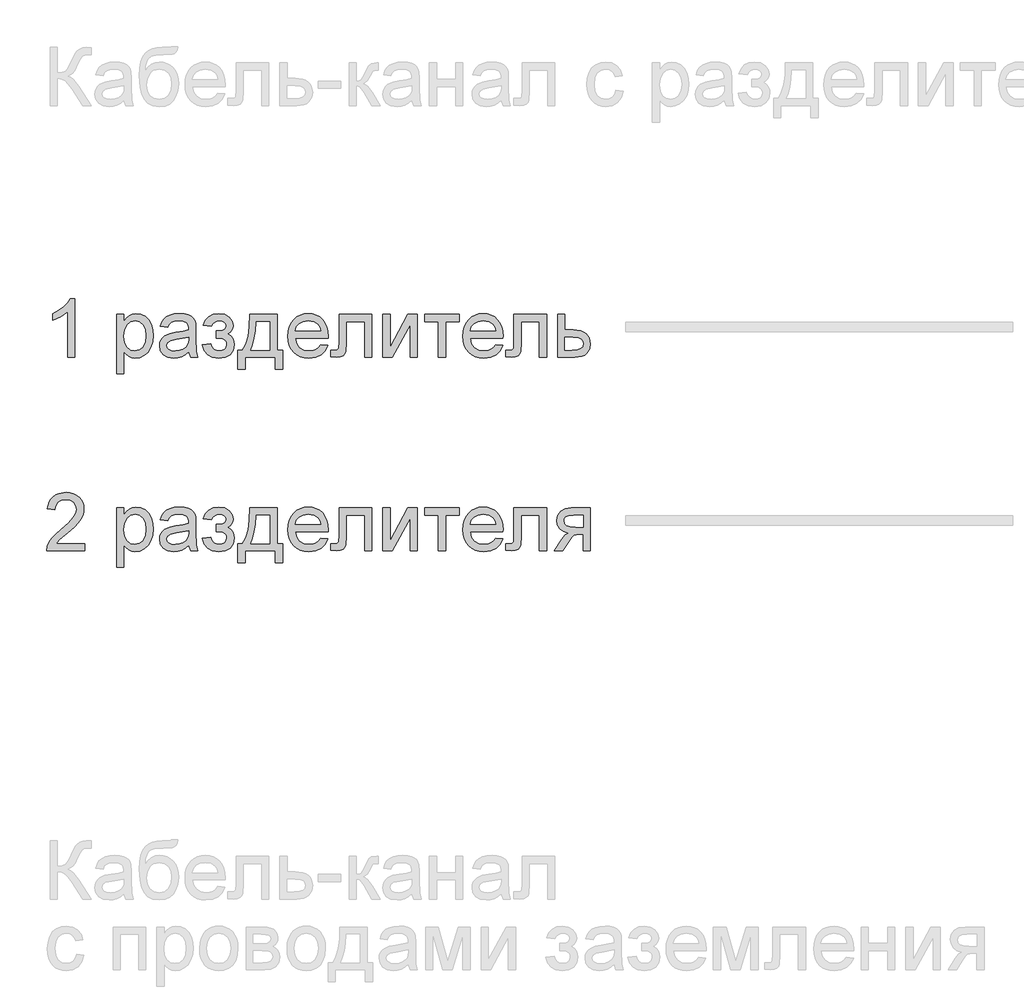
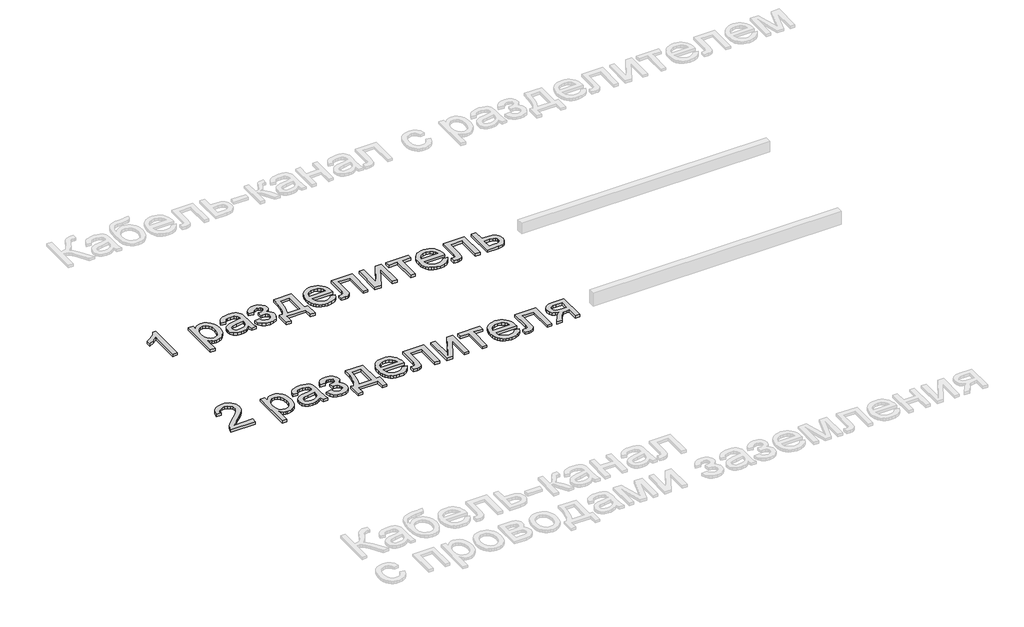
# One storey, part 82 of 168: 2 proxies.
"""IFC4 building model written with IfcOpenShell, lengths in millimetres."""

from ifc_helpers import new_model, si_unit, origin, origin_with_axes, place, context, project, spatial, polyline, outline, extrude, element, save

model = new_model("IFC4")

# Units and contexts
model_context = context("Model", 3, world=origin())
ifc_project = project(units=[si_unit("LENGTHUNIT", "METRE", prefix="MILLI")], contexts=[model_context])

# Site, building, storey
site = spatial("IfcSite", under=ifc_project)
building = spatial("IfcBuilding", under=site)
storey = spatial("IfcBuildingStorey", under=building, Name="Этаж 01", Elevation=0.0)

# Proxies
placement = place(None, origin())
element("IfcBuildingElementProxy", 1, Name="300 мм Arial 2", ObjectType="300 мм Arial 2", at=placement, inside=storey, context=model_context, shape_type="SweptSolid", body=[
    extrude(outline(polyline([(905.9577491, -18348.4056816), (868.2866328, -18348.4056816), (868.2866328, -18113.5498158), (832.6020793, -18138.9704617), (792.9444002, -18157.9899609), (792.9444002, -18122.3789837), (822.5313096, -18106.2841464), (848.1634877, -18087.1358886), (868.3694062, -18066.7736202), (881.6775374, -18047.0367511), (905.9577491, -18047.0367511), (905.9577491, -18348.4056816)])), origin_with_axes(), (0.0, 0.0, 1.0), 20.0),
    extrude(outline(polyline([(1122.5666679, -18433.1656933), (1122.5666679, -18127.0878733), (1160.2377842, -18127.0878733), (1160.2377842, -18164.0232256), (1172.5250428, -18145.8038698), (1186.2838294, -18132.7900442), (1202.3234844, -18124.9817488), (1221.4533482, -18122.3789837), (1246.9291763, -18126.0210155), (1269.2044311, -18136.9471107), (1287.3410135, -18154.4950819), (1300.4008243, -18178.0027414), (1308.2918931, -18205.7594379), (1310.9222494, -18236.0545202), (1307.9516023, -18268.271786), (1299.0396609, -18297.0861432), (1284.4715339, -18321.0352611), (1264.5323298, -18338.6568087), (1241.3097788, -18349.5001305), (1216.8916114, -18353.1145711), (1199.5735665, -18350.695747), (1184.1133256, -18343.4392746), (1170.8787709, -18332.4855882), (1160.2377842, -18318.975122), (1160.2377842, -18433.1656933), (1122.5666679, -18433.1656933)]), holes=[polyline([(1160.2377842, -18239.512611), (1164.3120773, -18273.2841782), (1176.5349565, -18296.9022022), (1194.5703714, -18310.8081417), (1216.082271, -18315.4434548), (1237.9436586, -18310.6425948), (1256.4389259, -18296.2400147), (1269.0480813, -18271.7574679), (1273.2511331, -18236.7167078), (1269.1492488, -18203.1290817), (1256.8435961, -18179.1799638), (1238.8357724, -18164.832566), (1217.6273754, -18160.0501), (1196.3362049, -18165.1360686), (1177.6386025, -18180.3939744), (1164.5879888, -18205.3455707), (1160.2377842, -18239.512611)])]), origin_with_axes(), (0.0, 0.0, 1.0), 20.0),
    extrude(outline(polyline([(1494.5689414, -18320.1523443), (1476.5703148, -18335.584994), (1458.0382593, -18345.6833548), (1438.5497106, -18351.256767), (1417.6816044, -18353.1145711), (1386.2001026, -18348.6448049), (1362.9775517, -18335.2355061), (1348.657745, -18314.8732377), (1343.8844762, -18289.5445623), (1345.6870979, -18273.9279716), (1351.0949633, -18259.7461207), (1359.4366875, -18247.6060149), (1370.040886, -18238.1146594), (1396.4180251, -18225.7538244), (1429.0123698, -18220.0884417), (1467.5296147, -18214.1287533), (1494.3482122, -18207.1389954), (1494.5689414, -18198.7512859), (1491.9753733, -18181.9390788), (1484.1946691, -18170.9394071), (1466.7938507, -18162.7724268), (1442.5504273, -18160.0501), (1420.1096256, -18161.8619189), (1404.4378526, -18167.2973753), (1393.7508806, -18177.3497509), (1386.264482, -18193.0123268), (1348.5933657, -18188.3034373), (1355.1324682, -18167.7020455), (1364.8905381, -18151.5152378), (1378.7780834, -18139.1360086), (1397.705612, -18129.9573528), (1420.8545866, -18124.273576), (1447.4064696, -18122.3789837), (1472.8731007, -18124.0528468), (1493.0606252, -18129.074436), (1508.2817427, -18136.625214), (1518.8491531, -18145.8866432), (1525.8573051, -18157.3369703), (1530.4006477, -18171.4544419), (1532.2400577, -18204.4166687), (1532.2400577, -18251.2848348), (1534.1530441, -18316.7310418), (1541.6578368, -18348.4056816), (1503.9867205, -18348.4056816), (1494.5689414, -18320.1523443)]), holes=[polyline([(1494.5689414, -18244.8101117), (1433.7948358, -18256.3616064), (1401.384432, -18262.4684475), (1386.7059404, -18272.4012614), (1381.5555925, -18286.895812), (1384.3606927, -18298.0978187), (1392.7759933, -18307.2764745), (1406.6175534, -18313.4017097), (1425.7014319, -18315.4434548), (1445.9349416, -18313.1901776), (1463.8140066, -18306.4303459), (1478.3085572, -18296.4699409), (1488.3885239, -18284.6149436), (1492.8582901, -18272.4012614), (1494.3482122, -18255.4786896), (1494.5689414, -18244.8101117)])]), origin_with_axes(), (0.0, 0.0, 1.0), 20.0),
    extrude(outline(polyline([(1635.8356275, -18249.5190013), (1635.8356275, -18211.847885), (1665.5604927, -18210.376357), (1680.5700781, -18202.5404705), (1685.8675789, -18195.1920276), (1687.6334124, -18186.1697217), (1685.2697706, -18175.4551586), (1678.1788452, -18167.1502225), (1667.3539175, -18161.8251307), (1653.7882689, -18160.0501), (1640.0754675, -18161.8159336), (1628.5883522, -18167.1134343), (1619.326923, -18175.9426022), (1612.2911798, -18188.3034373), (1569.911174, -18183.5945477), (1581.1499689, -18156.8127385), (1598.2380876, -18137.6828747), (1621.17553, -18126.2049565), (1649.9622961, -18122.3789837), (1681.4529949, -18127.041888), (1705.2917482, -18141.0306009), (1720.3013336, -18161.4940369), (1725.3045288, -18185.5811105), (1723.5248996, -18197.9419455), (1718.1860121, -18208.9784054), (1709.2878664, -18218.6904901), (1696.8304623, -18227.0781996), (1711.3709982, -18237.5444423), (1721.7360734, -18250.5490709), (1727.9440821, -18266.1288733), (1730.0134183, -18284.320638), (1724.7619028, -18312.0497434), (1709.0073564, -18334.0214956), (1683.8166367, -18348.3413022), (1650.2566017, -18353.1145711), (1617.4323307, -18348.6999872), (1592.3151875, -18335.4562353), (1574.9051721, -18313.3833156), (1565.2022845, -18282.481228), (1607.5822903, -18277.7723385), (1613.9282547, -18293.7016289), (1624.5784385, -18305.5842173), (1638.3004369, -18312.9786454), (1653.8618453, -18315.4434548), (1669.0185835, -18313.079813), (1681.3794185, -18305.9888875), (1689.6015811, -18295.2191421), (1692.342302, -18281.8190404), (1690.6408478, -18271.2056449), (1685.5364851, -18262.0269891), (1671.0419345, -18251.4319876), (1643.1932674, -18249.2982721), (1635.8356275, -18249.5190013)])), origin_with_axes(), (0.0, 0.0, 1.0), 20.0),
    extrude(outline(polyline([(1810.0645404, -18127.0878733), (1951.3312266, -18127.0878733), (1951.3312266, -18310.7345653), (1979.5845638, -18310.7345653), (1979.5845638, -18409.6212456), (1941.9134475, -18409.6212456), (1941.9134475, -18348.4056816), (1786.5200928, -18348.4056816), (1786.5200928, -18409.6212456), (1748.8489764, -18409.6212456), (1748.8489764, -18310.7345653), (1772.3934241, -18310.7345653), (1789.509134, -18279.8048865), (1801.49289, -18238.8872116), (1808.3446921, -18187.9815405), (1810.0645404, -18127.0878733)]), holes=[polyline([(1843.0267672, -18164.7589896), (1839.9365585, -18210.8821947), (1834.1975993, -18250.5858591), (1825.8098898, -18283.8699826), (1814.77343, -18310.7345653), (1913.6601103, -18310.7345653), (1913.6601103, -18164.7589896), (1843.0267672, -18164.7589896)])]), origin_with_axes(), (0.0, 0.0, 1.0), 20.0),
    extrude(outline(polyline([(2176.916466, -18282.481228), (2213.8518183, -18287.1901176), (2200.5436872, -18315.0203905), (2179.307699, -18335.8241173), (2150.6221004, -18348.7919577), (2114.965138, -18353.1145711), (2091.5908358, -18351.2498692), (2070.7641163, -18345.6557637), (2052.4849797, -18336.3322543), (2036.7534259, -18323.2793413), (2024.1028838, -18306.860308), (2015.0667823, -18287.4384379), (2009.6451214, -18265.013731), (2007.837901, -18239.5861874), (2009.6635155, -18213.2964203), (2015.1403587, -18190.1244531), (2024.2684307, -18170.0702859), (2037.0477315, -18153.1339185), (2052.7378986, -18139.6786346), (2070.5985694, -18130.0677174), (2090.6297441, -18124.3011672), (2112.8314225, -18122.3789837), (2134.3180303, -18124.2965686), (2153.7490974, -18130.0493233), (2171.1246239, -18139.6372478), (2186.4446097, -18153.0603421), (2198.9502983, -18169.9599213), (2207.882933, -18189.9773003), (2213.2425138, -18213.1124793), (2215.0290407, -18239.3654582), (2214.8083115, -18249.5190013), (2045.5090174, -18249.5190013), (2052.0297257, -18277.7171562), (2067.1772669, -18298.4473066), (2089.0386544, -18311.1944178), (2115.700902, -18315.4434548), (2135.7504708, -18313.4752861), (2152.6362544, -18307.5707801), (2166.3582528, -18297.3620547), (2176.916466, -18282.481228)]), holes=[polyline([(2045.5090174, -18211.847885), (2177.3579244, -18211.847885), (2172.2627588, -18191.945469), (2162.2747626, -18177.7084358), (2140.3122075, -18164.464684), (2112.6842697, -18160.0501), (2087.291215, -18163.5725701), (2066.2943501, -18174.1399805), (2051.6986319, -18190.6118968), (2045.5090174, -18211.847885)])]), origin_with_axes(), (0.0, 0.0, 1.0), 20.0),
    extrude(outline(polyline([(2271.5357152, -18127.0878733), (2441.0557386, -18127.0878733), (2441.0557386, -18348.1849524), (2403.3846223, -18348.1849524), (2403.3846223, -18164.7589896), (2309.2068315, -18164.7589896), (2309.2068315, -18270.3411222), (2306.6684457, -18319.0486984), (2301.9135709, -18330.0759612), (2292.7257181, -18339.6133019), (2278.7829905, -18346.2075866), (2259.7634913, -18348.4056816), (2229.1557093, -18346.4926952), (2229.1557093, -18310.7345653), (2246.0047047, -18310.7345653), (2263.0376411, -18308.4169087), (2269.843458, -18301.0592688), (2271.5357152, -18268.2074066), (2271.5357152, -18127.0878733)])), origin_with_axes(), (0.0, 0.0, 1.0), 20.0),
    extrude(outline(polyline([(2497.562413, -18127.0878733), (2535.2335293, -18127.0878733), (2535.2335293, -18295.8721327), (2627.7926393, -18127.0878733), (2676.5002155, -18127.0878733), (2676.5002155, -18348.4056816), (2638.8290992, -18348.4056816), (2638.8290992, -18180.6514918), (2546.8586004, -18348.4056816), (2497.562413, -18348.4056816), (2497.562413, -18127.0878733)])), origin_with_axes(), (0.0, 0.0, 1.0), 20.0),
    extrude(outline(polyline([(2714.1713318, -18127.0878733), (2893.1091342, -18127.0878733), (2893.1091342, -18164.7589896), (2822.4757912, -18164.7589896), (2822.4757912, -18348.4056816), (2784.8046749, -18348.4056816), (2784.8046749, -18164.7589896), (2714.1713318, -18164.7589896), (2714.1713318, -18127.0878733)])), origin_with_axes(), (0.0, 0.0, 1.0), 20.0),
    extrude(outline(polyline([(3081.0232574, -18282.481228), (3117.9586097, -18287.1901176), (3104.6504785, -18315.0203905), (3083.4144903, -18335.8241173), (3054.7288918, -18348.7919577), (3019.0719294, -18353.1145711), (2995.6976271, -18351.2498692), (2974.8709077, -18345.6557637), (2956.591771, -18336.3322543), (2940.8602172, -18323.2793413), (2928.2096751, -18306.860308), (2919.1735736, -18287.4384379), (2913.7519127, -18265.013731), (2911.9446924, -18239.5861874), (2913.7703068, -18213.2964203), (2919.24715, -18190.1244531), (2928.375222, -18170.0702859), (2941.1545228, -18153.1339185), (2956.8446899, -18139.6786346), (2974.7053608, -18130.0677174), (2994.7365354, -18124.3011672), (3016.9382138, -18122.3789837), (3038.4248216, -18124.2965686), (3057.8558887, -18130.0493233), (3075.2314152, -18139.6372478), (3090.5514011, -18153.0603421), (3103.0570896, -18169.9599213), (3111.9897243, -18189.9773003), (3117.3493051, -18213.1124793), (3119.1358321, -18239.3654582), (3118.9151029, -18249.5190013), (2949.6158087, -18249.5190013), (2956.1365171, -18277.7171562), (2971.2840582, -18298.4473066), (2993.1454458, -18311.1944178), (3019.8076934, -18315.4434548), (3039.8572621, -18313.4752861), (3056.7430457, -18307.5707801), (3070.4650441, -18297.3620547), (3081.0232574, -18282.481228)]), holes=[polyline([(2949.6158087, -18211.847885), (3081.4647158, -18211.847885), (3076.3695501, -18191.945469), (3066.381554, -18177.7084358), (3044.4189989, -18164.464684), (3016.791061, -18160.0501), (2991.3980063, -18163.5725701), (2970.4011414, -18174.1399805), (2955.8054233, -18190.6118968), (2949.6158087, -18211.847885)])]), origin_with_axes(), (0.0, 0.0, 1.0), 20.0),
    extrude(outline(polyline([(3175.6425065, -18127.0878733), (3345.1625299, -18127.0878733), (3345.1625299, -18348.1849524), (3307.4914136, -18348.1849524), (3307.4914136, -18164.7589896), (3213.3136228, -18164.7589896), (3213.3136228, -18270.3411222), (3210.7752371, -18319.0486984), (3206.0203623, -18330.0759612), (3196.8325095, -18339.6133019), (3182.8897818, -18346.2075866), (3163.8702827, -18348.4056816), (3133.2625007, -18346.4926952), (3133.2625007, -18310.7345653), (3150.1114961, -18310.7345653), (3167.1444324, -18308.4169087), (3173.9502494, -18301.0592688), (3175.6425065, -18268.2074066), (3175.6425065, -18127.0878733)])), origin_with_axes(), (0.0, 0.0, 1.0), 20.0),
    extrude(outline(polyline([(3401.6692044, -18127.0878733), (3439.3403207, -18127.0878733), (3439.3403207, -18207.1389954), (3482.7503961, -18207.1389954), (3520.3847242, -18211.857082), (3535.5322654, -18217.7546902), (3548.2333913, -18226.0113418), (3558.2765697, -18236.3419281), (3565.4502686, -18248.4613405), (3571.1892278, -18278.0666441), (3566.3055943, -18305.0231973), (3551.6546938, -18327.7675016), (3540.4227966, -18336.7967054), (3526.2616391, -18343.2461366), (3489.1515428, -18348.4056816), (3401.6692044, -18348.4056816), (3401.6692044, -18127.0878733)]), holes=[polyline([(3439.3403207, -18310.7345653), (3474.5098394, -18310.7345653), (3501.7974864, -18308.7571995), (3519.9432658, -18302.8251024), (3530.1244, -18292.6991504), (3533.5181114, -18278.1402205), (3531.0073168, -18265.8345678), (3523.474933, -18254.9636548), (3507.3341104, -18247.3484975), (3478.9979998, -18244.8101117), (3439.3403207, -18244.8101117), (3439.3403207, -18310.7345653)])]), origin_with_axes(), (0.0, 0.0, 1.0), 20.0),
])
element("IfcBuildingElementProxy", 2, Name="300 мм Arial 2", ObjectType="300 мм Arial 2", at=placement, inside=storey, context=model_context, shape_type="SweptSolid", body=[
    extrude(outline(polyline([(957.755534, -19310.7345653), (957.755534, -19348.4056816), (759.9821734, -19348.4056816), (764.0288754, -19322.4332127), (773.3178957, -19302.1353236), (786.9111355, -19282.4444398), (806.5744281, -19261.8338511), (834.0736072, -19238.776847), (874.7245677, -19202.6692292), (899.115144, -19176.0161786), (911.3104321, -19154.3847173), (915.3755282, -19133.3418672), (911.5403584, -19114.4787179), (900.034849, -19098.7977478), (882.3489221, -19088.2303375), (859.9724997, -19084.7078674), (836.4740373, -19088.1475641), (818.2178932, -19098.466654), (806.4364724, -19114.8557969), (802.3621793, -19136.5056523), (764.6910629, -19131.7967628), (773.8237335, -19095.3580512), (782.3700921, -19080.8221139), (793.5697996, -19068.7417888), (807.1653386, -19059.2458348), (822.8991916, -19052.4630105), (860.7818401, -19047.0367511), (880.9716638, -19048.5450673), (898.9404, -19053.0700158), (914.6880487, -19060.6115967), (928.2146098, -19071.16981), (939.078625, -19083.9629064), (946.8386358, -19098.2091366), (951.4946423, -19113.9085008), (953.0466445, -19131.0609988), (951.3727814, -19149.0780195), (946.3511922, -19166.7823406), (937.4392508, -19184.7901642), (924.0943315, -19203.7176929), (902.8215551, -19226.3148444), (870.1260428, -19255.3315368), (826.7895437, -19291.5679133), (809.7933956, -19310.7345653), (957.755534, -19310.7345653)])), origin_with_axes(), (0.0, 0.0, 1.0), 20.0),
    extrude(outline(polyline([(1122.5666679, -19433.1656933), (1122.5666679, -19127.0878733), (1160.2377842, -19127.0878733), (1160.2377842, -19164.0232256), (1172.5250428, -19145.8038698), (1186.2838294, -19132.7900442), (1202.3234844, -19124.9817488), (1221.4533482, -19122.3789837), (1246.9291763, -19126.0210155), (1269.2044311, -19136.9471107), (1287.3410135, -19154.4950819), (1300.4008243, -19178.0027414), (1308.2918931, -19205.7594379), (1310.9222494, -19236.0545202), (1307.9516023, -19268.271786), (1299.0396609, -19297.0861432), (1284.4715339, -19321.0352611), (1264.5323298, -19338.6568087), (1241.3097788, -19349.5001305), (1216.8916114, -19353.1145711), (1199.5735665, -19350.695747), (1184.1133256, -19343.4392746), (1170.8787709, -19332.4855882), (1160.2377842, -19318.975122), (1160.2377842, -19433.1656933), (1122.5666679, -19433.1656933)]), holes=[polyline([(1160.2377842, -19239.512611), (1164.3120773, -19273.2841782), (1176.5349565, -19296.9022022), (1194.5703714, -19310.8081417), (1216.082271, -19315.4434548), (1237.9436586, -19310.6425948), (1256.4389259, -19296.2400147), (1269.0480813, -19271.7574679), (1273.2511331, -19236.7167078), (1269.1492488, -19203.1290817), (1256.8435961, -19179.1799638), (1238.8357724, -19164.832566), (1217.6273754, -19160.0501), (1196.3362049, -19165.1360686), (1177.6386025, -19180.3939744), (1164.5879888, -19205.3455707), (1160.2377842, -19239.512611)])]), origin_with_axes(), (0.0, 0.0, 1.0), 20.0),
    extrude(outline(polyline([(1494.5689414, -19320.1523443), (1476.5703148, -19335.584994), (1458.0382593, -19345.6833548), (1438.5497106, -19351.256767), (1417.6816044, -19353.1145711), (1386.2001026, -19348.6448049), (1362.9775517, -19335.2355061), (1348.657745, -19314.8732377), (1343.8844762, -19289.5445623), (1345.6870979, -19273.9279716), (1351.0949633, -19259.7461207), (1359.4366875, -19247.6060149), (1370.040886, -19238.1146594), (1396.4180251, -19225.7538244), (1429.0123698, -19220.0884417), (1467.5296147, -19214.1287533), (1494.3482122, -19207.1389954), (1494.5689414, -19198.7512859), (1491.9753733, -19181.9390788), (1484.1946691, -19170.9394071), (1466.7938507, -19162.7724268), (1442.5504273, -19160.0501), (1420.1096256, -19161.8619189), (1404.4378526, -19167.2973753), (1393.7508806, -19177.3497509), (1386.264482, -19193.0123268), (1348.5933657, -19188.3034373), (1355.1324682, -19167.7020455), (1364.8905381, -19151.5152378), (1378.7780834, -19139.1360086), (1397.705612, -19129.9573528), (1420.8545866, -19124.273576), (1447.4064696, -19122.3789837), (1472.8731007, -19124.0528468), (1493.0606252, -19129.074436), (1508.2817427, -19136.625214), (1518.8491531, -19145.8866432), (1525.8573051, -19157.3369703), (1530.4006477, -19171.4544419), (1532.2400577, -19204.4166687), (1532.2400577, -19251.2848348), (1534.1530441, -19316.7310418), (1541.6578368, -19348.4056816), (1503.9867205, -19348.4056816), (1494.5689414, -19320.1523443)]), holes=[polyline([(1494.5689414, -19244.8101117), (1433.7948358, -19256.3616064), (1401.384432, -19262.4684475), (1386.7059404, -19272.4012614), (1381.5555925, -19286.895812), (1384.3606927, -19298.0978187), (1392.7759933, -19307.2764745), (1406.6175534, -19313.4017097), (1425.7014319, -19315.4434548), (1445.9349416, -19313.1901776), (1463.8140066, -19306.4303459), (1478.3085572, -19296.4699409), (1488.3885239, -19284.6149436), (1492.8582901, -19272.4012614), (1494.3482122, -19255.4786896), (1494.5689414, -19244.8101117)])]), origin_with_axes(), (0.0, 0.0, 1.0), 20.0),
    extrude(outline(polyline([(1635.8356275, -19249.5190013), (1635.8356275, -19211.847885), (1665.5604927, -19210.376357), (1680.5700781, -19202.5404705), (1685.8675789, -19195.1920276), (1687.6334124, -19186.1697217), (1685.2697706, -19175.4551586), (1678.1788452, -19167.1502225), (1667.3539175, -19161.8251307), (1653.7882689, -19160.0501), (1640.0754675, -19161.8159336), (1628.5883522, -19167.1134343), (1619.326923, -19175.9426022), (1612.2911798, -19188.3034373), (1569.911174, -19183.5945477), (1581.1499689, -19156.8127385), (1598.2380876, -19137.6828747), (1621.17553, -19126.2049565), (1649.9622961, -19122.3789837), (1681.4529949, -19127.041888), (1705.2917482, -19141.0306009), (1720.3013336, -19161.4940369), (1725.3045288, -19185.5811105), (1723.5248996, -19197.9419455), (1718.1860121, -19208.9784054), (1709.2878664, -19218.6904901), (1696.8304623, -19227.0781996), (1711.3709982, -19237.5444423), (1721.7360734, -19250.5490709), (1727.9440821, -19266.1288733), (1730.0134183, -19284.320638), (1724.7619028, -19312.0497434), (1709.0073564, -19334.0214956), (1683.8166367, -19348.3413022), (1650.2566017, -19353.1145711), (1617.4323307, -19348.6999872), (1592.3151875, -19335.4562353), (1574.9051721, -19313.3833156), (1565.2022845, -19282.481228), (1607.5822903, -19277.7723385), (1613.9282547, -19293.7016289), (1624.5784385, -19305.5842173), (1638.3004369, -19312.9786454), (1653.8618453, -19315.4434548), (1669.0185835, -19313.079813), (1681.3794185, -19305.9888875), (1689.6015811, -19295.2191421), (1692.342302, -19281.8190404), (1690.6408478, -19271.2056449), (1685.5364851, -19262.0269891), (1671.0419345, -19251.4319876), (1643.1932674, -19249.2982721), (1635.8356275, -19249.5190013)])), origin_with_axes(), (0.0, 0.0, 1.0), 20.0),
    extrude(outline(polyline([(1810.0645404, -19127.0878733), (1951.3312266, -19127.0878733), (1951.3312266, -19310.7345653), (1979.5845638, -19310.7345653), (1979.5845638, -19409.6212456), (1941.9134475, -19409.6212456), (1941.9134475, -19348.4056816), (1786.5200928, -19348.4056816), (1786.5200928, -19409.6212456), (1748.8489764, -19409.6212456), (1748.8489764, -19310.7345653), (1772.3934241, -19310.7345653), (1789.509134, -19279.8048865), (1801.49289, -19238.8872116), (1808.3446921, -19187.9815405), (1810.0645404, -19127.0878733)]), holes=[polyline([(1843.0267672, -19164.7589896), (1839.9365585, -19210.8821947), (1834.1975993, -19250.5858591), (1825.8098898, -19283.8699826), (1814.77343, -19310.7345653), (1913.6601103, -19310.7345653), (1913.6601103, -19164.7589896), (1843.0267672, -19164.7589896)])]), origin_with_axes(), (0.0, 0.0, 1.0), 20.0),
    extrude(outline(polyline([(2176.916466, -19282.481228), (2213.8518183, -19287.1901176), (2200.5436872, -19315.0203905), (2179.307699, -19335.8241173), (2150.6221004, -19348.7919577), (2114.965138, -19353.1145711), (2091.5908358, -19351.2498692), (2070.7641163, -19345.6557637), (2052.4849797, -19336.3322543), (2036.7534259, -19323.2793413), (2024.1028838, -19306.860308), (2015.0667823, -19287.4384379), (2009.6451214, -19265.013731), (2007.837901, -19239.5861874), (2009.6635155, -19213.2964203), (2015.1403587, -19190.1244531), (2024.2684307, -19170.0702859), (2037.0477315, -19153.1339185), (2052.7378986, -19139.6786346), (2070.5985694, -19130.0677174), (2090.6297441, -19124.3011672), (2112.8314225, -19122.3789837), (2134.3180303, -19124.2965686), (2153.7490974, -19130.0493233), (2171.1246239, -19139.6372478), (2186.4446097, -19153.0603421), (2198.9502983, -19169.9599213), (2207.882933, -19189.9773003), (2213.2425138, -19213.1124793), (2215.0290407, -19239.3654582), (2214.8083115, -19249.5190013), (2045.5090174, -19249.5190013), (2052.0297257, -19277.7171562), (2067.1772669, -19298.4473066), (2089.0386544, -19311.1944178), (2115.700902, -19315.4434548), (2135.7504708, -19313.4752861), (2152.6362544, -19307.5707801), (2166.3582528, -19297.3620547), (2176.916466, -19282.481228)]), holes=[polyline([(2045.5090174, -19211.847885), (2177.3579244, -19211.847885), (2172.2627588, -19191.945469), (2162.2747626, -19177.7084358), (2140.3122075, -19164.464684), (2112.6842697, -19160.0501), (2087.291215, -19163.5725701), (2066.2943501, -19174.1399805), (2051.6986319, -19190.6118968), (2045.5090174, -19211.847885)])]), origin_with_axes(), (0.0, 0.0, 1.0), 20.0),
    extrude(outline(polyline([(2271.5357152, -19127.0878733), (2441.0557386, -19127.0878733), (2441.0557386, -19348.1849524), (2403.3846223, -19348.1849524), (2403.3846223, -19164.7589896), (2309.2068315, -19164.7589896), (2309.2068315, -19270.3411222), (2306.6684457, -19319.0486984), (2301.9135709, -19330.0759612), (2292.7257181, -19339.6133019), (2278.7829905, -19346.2075866), (2259.7634913, -19348.4056816), (2229.1557093, -19346.4926952), (2229.1557093, -19310.7345653), (2246.0047047, -19310.7345653), (2263.0376411, -19308.4169087), (2269.843458, -19301.0592688), (2271.5357152, -19268.2074066), (2271.5357152, -19127.0878733)])), origin_with_axes(), (0.0, 0.0, 1.0), 20.0),
    extrude(outline(polyline([(2497.562413, -19127.0878733), (2535.2335293, -19127.0878733), (2535.2335293, -19295.8721327), (2627.7926393, -19127.0878733), (2676.5002155, -19127.0878733), (2676.5002155, -19348.4056816), (2638.8290992, -19348.4056816), (2638.8290992, -19180.6514918), (2546.8586004, -19348.4056816), (2497.562413, -19348.4056816), (2497.562413, -19127.0878733)])), origin_with_axes(), (0.0, 0.0, 1.0), 20.0),
    extrude(outline(polyline([(2714.1713318, -19127.0878733), (2893.1091342, -19127.0878733), (2893.1091342, -19164.7589896), (2822.4757912, -19164.7589896), (2822.4757912, -19348.4056816), (2784.8046749, -19348.4056816), (2784.8046749, -19164.7589896), (2714.1713318, -19164.7589896), (2714.1713318, -19127.0878733)])), origin_with_axes(), (0.0, 0.0, 1.0), 20.0),
    extrude(outline(polyline([(3081.0232574, -19282.481228), (3117.9586097, -19287.1901176), (3104.6504785, -19315.0203905), (3083.4144903, -19335.8241173), (3054.7288918, -19348.7919577), (3019.0719294, -19353.1145711), (2995.6976271, -19351.2498692), (2974.8709077, -19345.6557637), (2956.591771, -19336.3322543), (2940.8602172, -19323.2793413), (2928.2096751, -19306.860308), (2919.1735736, -19287.4384379), (2913.7519127, -19265.013731), (2911.9446924, -19239.5861874), (2913.7703068, -19213.2964203), (2919.24715, -19190.1244531), (2928.375222, -19170.0702859), (2941.1545228, -19153.1339185), (2956.8446899, -19139.6786346), (2974.7053608, -19130.0677174), (2994.7365354, -19124.3011672), (3016.9382138, -19122.3789837), (3038.4248216, -19124.2965686), (3057.8558887, -19130.0493233), (3075.2314152, -19139.6372478), (3090.5514011, -19153.0603421), (3103.0570896, -19169.9599213), (3111.9897243, -19189.9773003), (3117.3493051, -19213.1124793), (3119.1358321, -19239.3654582), (3118.9151029, -19249.5190013), (2949.6158087, -19249.5190013), (2956.1365171, -19277.7171562), (2971.2840582, -19298.4473066), (2993.1454458, -19311.1944178), (3019.8076934, -19315.4434548), (3039.8572621, -19313.4752861), (3056.7430457, -19307.5707801), (3070.4650441, -19297.3620547), (3081.0232574, -19282.481228)]), holes=[polyline([(2949.6158087, -19211.847885), (3081.4647158, -19211.847885), (3076.3695501, -19191.945469), (3066.381554, -19177.7084358), (3044.4189989, -19164.464684), (3016.791061, -19160.0501), (2991.3980063, -19163.5725701), (2970.4011414, -19174.1399805), (2955.8054233, -19190.6118968), (2949.6158087, -19211.847885)])]), origin_with_axes(), (0.0, 0.0, 1.0), 20.0),
    extrude(outline(polyline([(3175.6425065, -19127.0878733), (3345.1625299, -19127.0878733), (3345.1625299, -19348.1849524), (3307.4914136, -19348.1849524), (3307.4914136, -19164.7589896), (3213.3136228, -19164.7589896), (3213.3136228, -19270.3411222), (3210.7752371, -19319.0486984), (3206.0203623, -19330.0759612), (3196.8325095, -19339.6133019), (3182.8897818, -19346.2075866), (3163.8702827, -19348.4056816), (3133.2625007, -19346.4926952), (3133.2625007, -19310.7345653), (3150.1114961, -19310.7345653), (3167.1444324, -19308.4169087), (3173.9502494, -19301.0592688), (3175.6425065, -19268.2074066), (3175.6425065, -19127.0878733)])), origin_with_axes(), (0.0, 0.0, 1.0), 20.0),
    extrude(outline(polyline([(3571.1892278, -19127.0878733), (3571.1892278, -19348.4056816), (3533.5181114, -19348.4056816), (3533.5181114, -19263.6456699), (3512.9902961, -19263.6456699), (3485.0312645, -19268.4281358), (3473.8660459, -19278.8575904), (3458.76449, -19300.5810222), (3428.7453192, -19348.4056816), (3385.188091, -19348.4056816), (3423.0063601, -19287.9258816), (3439.7082027, -19266.2208438), (3455.0856701, -19256.5823356), (3429.3339304, -19248.6912668), (3411.2341362, -19233.7000755), (3400.5287702, -19213.7608713), (3396.9603148, -19191.025764), (3401.8347513, -19165.2372362), (3416.4580606, -19144.8197854), (3440.315208, -19131.5208513), (3472.8911586, -19127.0878733), (3571.1892278, -19127.0878733)]), holes=[polyline([(3533.5181114, -19164.7589896), (3483.8540421, -19164.7589896), (3458.20347, -19166.9386904), (3443.64454, -19173.4777929), (3436.8847084, -19182.9415572), (3434.6314311, -19193.8952436), (3437.9515661, -19208.2518385), (3447.9119712, -19218.2122435), (3466.315268, -19224.033976), (3494.9640784, -19225.9745536), (3533.5181114, -19225.9745536), (3533.5181114, -19164.7589896)])]), origin_with_axes(), (0.0, 0.0, 1.0), 20.0),
])

save(model, "model.ifc")
